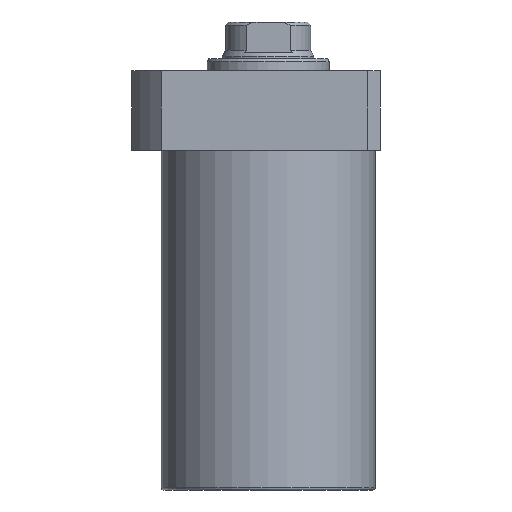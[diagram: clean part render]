
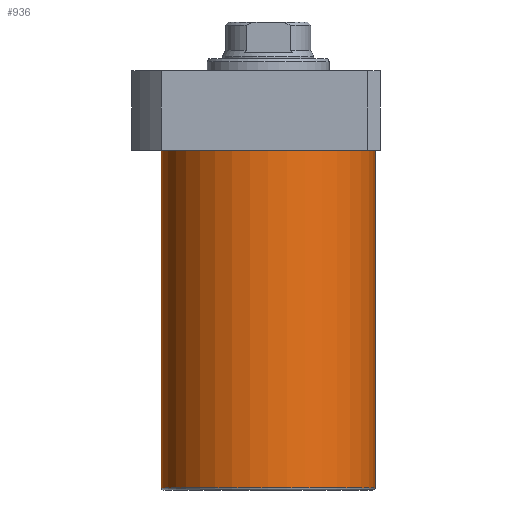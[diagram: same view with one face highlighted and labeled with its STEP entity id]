
A CAD part, front view. The second image highlights one B-rep face of the part: STEP entity #936.
In plain terms, the highlighted cylindrical face has radius 52.5 mm (diameter 105 mm), a partial arc.
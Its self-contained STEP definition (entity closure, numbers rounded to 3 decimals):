
#17 = VERTEX_POINT ( 'NONE', #1906 ) ;
#35 = CARTESIAN_POINT ( 'NONE',  ( 0., 0., -186.5 ) ) ;
#134 = FACE_OUTER_BOUND ( 'NONE', #993, .T. ) ;
#169 = AXIS2_PLACEMENT_3D ( 'NONE', #1714, #968, #1419 ) ;
#192 = VERTEX_POINT ( 'NONE', #1168 ) ;
#279 = VERTEX_POINT ( 'NONE', #910 ) ;
#337 = CYLINDRICAL_SURFACE ( 'NONE', #579, 52.5 ) ;
#365 = EDGE_CURVE ( 'NONE', #17, #1068, #1140, .T. ) ;
#445 = EDGE_CURVE ( 'NONE', #17, #279, #1922, .T. ) ;
#510 = DIRECTION ( 'NONE',  ( 0., 0., 1. ) ) ;
#520 = ORIENTED_EDGE ( 'NONE', *, *, #1492, .T. ) ;
#565 = LINE ( 'NONE', #1623, #1586 ) ;
#579 = AXIS2_PLACEMENT_3D ( 'NONE', #35, #510, #1095 ) ;
#677 = AXIS2_PLACEMENT_3D ( 'NONE', #1716, #1259, #1246 ) ;
#812 = CIRCLE ( 'NONE', #169, 52.5 ) ;
#822 = CARTESIAN_POINT ( 'NONE',  ( 52.5, 0., -185.5 ) ) ;
#910 = CARTESIAN_POINT ( 'NONE',  ( -52.5, 0., -19.5 ) ) ;
#936 = ADVANCED_FACE ( 'NONE', ( #134 ), #337, .T. ) ;
#968 = DIRECTION ( 'NONE',  ( 0., 0., -1. ) ) ;
#993 = EDGE_LOOP ( 'NONE', ( #1030, #1138, #1736, #520 ) ) ;
#1030 = ORIENTED_EDGE ( 'NONE', *, *, #445, .F. ) ;
#1068 = VERTEX_POINT ( 'NONE', #822 ) ;
#1095 = DIRECTION ( 'NONE',  ( 1., 0., 0. ) ) ;
#1138 = ORIENTED_EDGE ( 'NONE', *, *, #365, .T. ) ;
#1140 = CIRCLE ( 'NONE', #677, 52.5 ) ;
#1168 = CARTESIAN_POINT ( 'NONE',  ( 52.5, 0., -19.5 ) ) ;
#1170 = EDGE_CURVE ( 'NONE', #1068, #192, #565, .T. ) ;
#1246 = DIRECTION ( 'NONE',  ( -1., 0., 0. ) ) ;
#1259 = DIRECTION ( 'NONE',  ( 0., 0., 1. ) ) ;
#1419 = DIRECTION ( 'NONE',  ( 1., 0., 0. ) ) ;
#1492 = EDGE_CURVE ( 'NONE', #192, #279, #812, .T. ) ;
#1564 = VECTOR ( 'NONE', #1877, 1000. ) ;
#1586 = VECTOR ( 'NONE', #1618, 1000. ) ;
#1618 = DIRECTION ( 'NONE',  ( 0., 0., 1. ) ) ;
#1623 = CARTESIAN_POINT ( 'NONE',  ( 52.5, 0., -186.5 ) ) ;
#1705 = CARTESIAN_POINT ( 'NONE',  ( -52.5, 0., -186.5 ) ) ;
#1714 = CARTESIAN_POINT ( 'NONE',  ( 0., 0., -19.5 ) ) ;
#1716 = CARTESIAN_POINT ( 'NONE',  ( 0., 0., -185.5 ) ) ;
#1736 = ORIENTED_EDGE ( 'NONE', *, *, #1170, .T. ) ;
#1877 = DIRECTION ( 'NONE',  ( 0., 0., 1. ) ) ;
#1906 = CARTESIAN_POINT ( 'NONE',  ( -52.5, 0., -185.5 ) ) ;
#1922 = LINE ( 'NONE', #1705, #1564 ) ;
